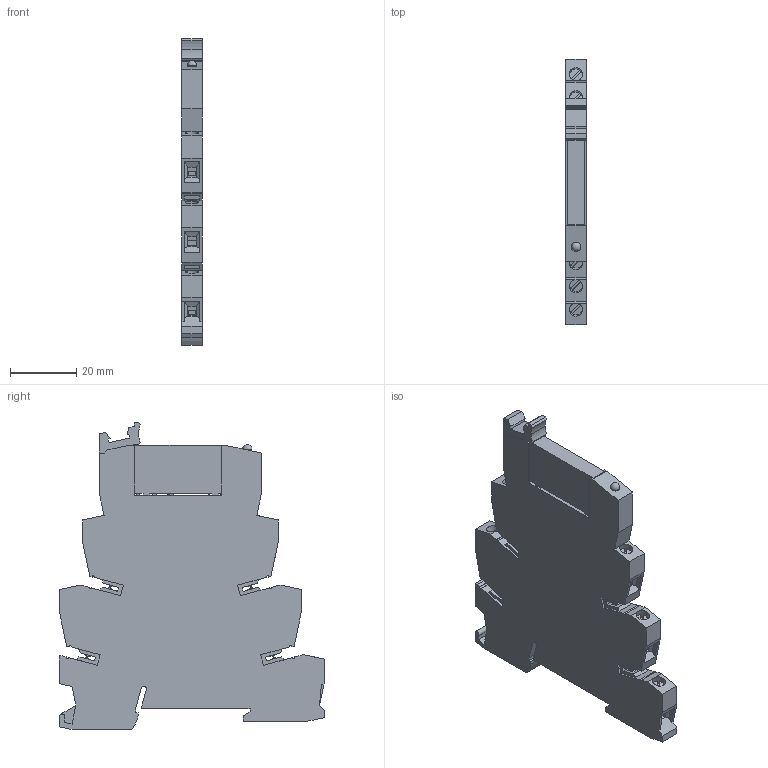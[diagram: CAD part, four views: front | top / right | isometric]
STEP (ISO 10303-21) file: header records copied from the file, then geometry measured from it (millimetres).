
FILE_DESCRIPTION(('TFLEX Exchange Step'),'2;1');
FILE_NAME('60201015_РПМ-2-24D-1B_P.stp', '2023-11-02T10:55:19+03:00',('apanin'),('Unknown organisation'),'TFLEX Exchange 2023.0','T-FLEX CAD','Unknown authorisation');
FILE_SCHEMA( ('AUTOMOTIVE_DESIGN { 1 0 10303 214 1 1 1 1 }') );
Length unit declared in the file: millimetre
Products named in the file (1): Тело_1:1
Bounding box: 6.1 x 80 x 92.6 mm (x, y, z)
Volume: 30024.8 mm3; surface area: 14755.3 mm2
Topology: 1 solids, 1 shells, 624 faces, 1779 edges, 1183 vertices
Faces by surface type: plane 426, cylinder 197, sphere 1
Full cylindrical faces by diameter (mm): 2.8 x1, 4 x5
Entity records: 20244 total; most frequent: CARTESIAN_POINT 3849, ORIENTED_EDGE 3548, DIRECTION 3214, EDGE_CURVE 1774, VERTEX_POINT 1181, VECTOR 1094, LINE 1094, AXIS2_PLACEMENT_3D 1060
